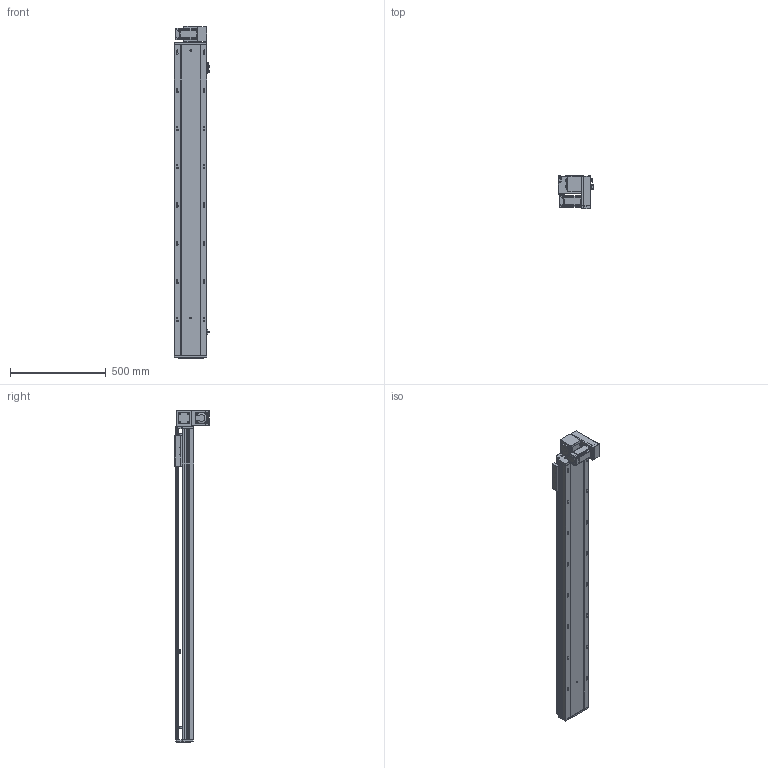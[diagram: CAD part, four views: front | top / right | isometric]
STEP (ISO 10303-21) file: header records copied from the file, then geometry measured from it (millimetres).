
FILE_DESCRIPTION (( 'STEP AP203' ), '1' );
FILE_NAME ('RY170-T-300-DR-P400W.SLDASM_1350.step', '2021-03-01T08:23:55', ( '盈信电脑' ), ( '东莞市道滘镇水果街19号' ), 'SwSTEP 2.0', 'SolidWorks 2012', '' );
FILE_SCHEMA (( 'CONFIG_CONTROL_DESIGN' ));
Length unit declared in the file: millimetre
Products named in the file (19): RY170-T-300-DR-P400W.SLDASM_1350; 15; 滅袉蝶18-10; RY170-T蹟翐M4; RY170-T-呴雄粣揤踡啣; RY170-T肮祭湍揤踡輸2; RY120-T主同步轮轴承压盖; RY170-T肮祭湍揤踡輸1; RY170-T肮祭謫裔啣; RY170翋肮祭謫釱; RY170肮祭謫萇儂欶; RY170同步轮电机安装板(400W); RY170肮祭謫ヶ裔啣; RY170外置感应片(200共用）; RY170綴裔啣; 覜茼ん672; RY170-T-300肮祭謫倰第裔啣-DR_1350; RY170-T-300肮祭謫倰第菁釱-DR_1350; RY170肮祭湍臏賑輸
Assembly tree (23 placements, depth 2):
  RY170-T-300-DR-P400W.SLDASM_1350
    RY170-T-300肮祭謫倰第菁釱-DR_1350
    RY170肮祭湍臏賑輸
    RY170-T-300肮祭謫倰第裔啣-DR_1350
    RY170綴裔啣
    覜茼ん672  x3
    RY170外置感应片(200共用）
    RY170肮祭謫ヶ裔啣
    RY170翋肮祭謫釱
    RY170同步轮电机安装板(400W)
    RY170肮祭謫萇儂欶
    RY170-T肮祭湍揤踡輸1  x2
    RY170-T肮祭湍揤踡輸2  x2
    RY120-T主同步轮轴承压盖
    RY170-T肮祭謫裔啣
    RY170-T蹟翐M4
    滅袉蝶18-10  x2
    RY170-T-呴雄粣揤踡啣
    15
Bounding box: 183.7 x 178 x 1738 mm (x, y, z)
Volume: 8381873.5 mm3; surface area: 2860598.9 mm2
Topology: 23 solids, 23 shells, 2830 faces, 7846 edges, 5019 vertices
Faces by surface type: cylinder 1270, plane 1266, cone 264, bspline 30
Entity records: 84405 total; most frequent: CARTESIAN_POINT 18740, ORIENTED_EDGE 13344, DIRECTION 13178, EDGE_CURVE 6672, AXIS2_PLACEMENT_3D 4647, VERTEX_POINT 4375, VECTOR 3884, LINE 3884
